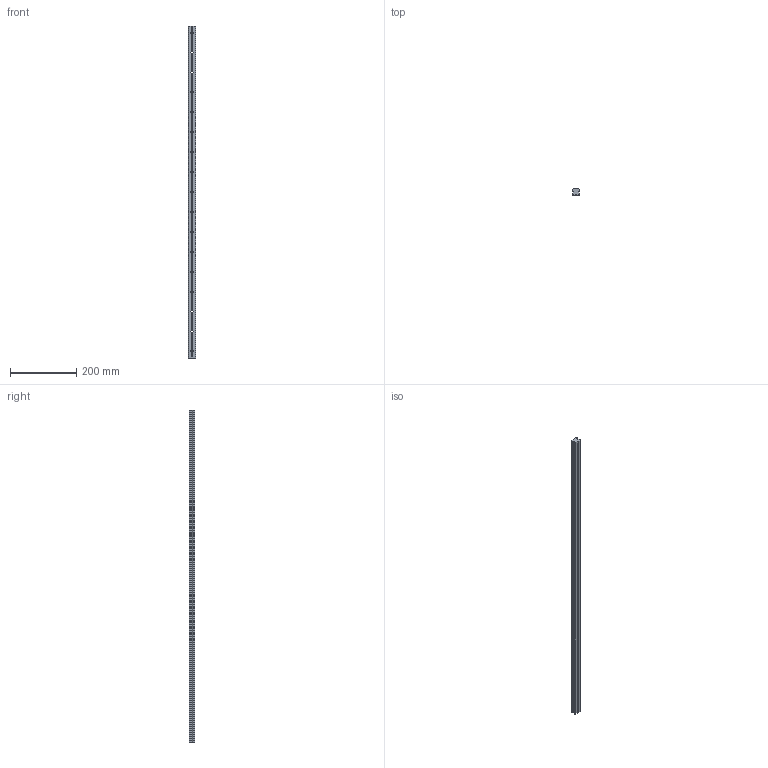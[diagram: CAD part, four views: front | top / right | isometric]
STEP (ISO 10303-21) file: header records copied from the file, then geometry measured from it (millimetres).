
FILE_DESCRIPTION (( 'STEP AP214' ), '1' );
FILE_NAME ('2.0011 Lineaarijohde EGR25U.STEP', '2024-04-22T08:09:03', ( '' ), ( '' ), 'SwSTEP 2.0', 'SolidWorks 2024', '' );
FILE_SCHEMA (( 'AUTOMOTIVE_DESIGN' ));
Length unit declared in the file: millimetre
Products named in the file (1): 2.0011 Lineaarijohde EGR25U
Bounding box: 23 x 18 x 1000 mm (x, y, z)
Volume: 343650.5 mm3; surface area: 91318.8 mm2
Topology: 1 solids, 1 shells, 166 faces, 492 edges, 328 vertices
Faces by surface type: plane 90, cylinder 76
Entity records: 5747 total; most frequent: CARTESIAN_POINT 1191, ORIENTED_EDGE 984, DIRECTION 978, EDGE_CURVE 492, AXIS2_PLACEMENT_3D 387, VERTEX_POINT 328, CIRCLE 220, VECTOR 204
